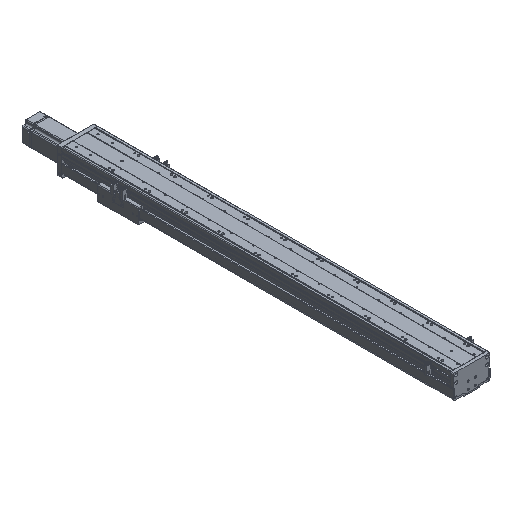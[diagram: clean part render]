
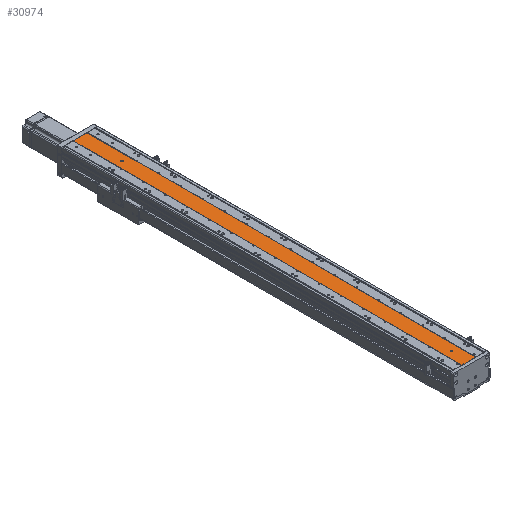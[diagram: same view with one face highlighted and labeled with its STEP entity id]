
A CAD part, isometric view. The second image highlights one B-rep face of the part: STEP entity #30974.
In plain terms, the highlighted planar face has unit normal (0, 0, 1).
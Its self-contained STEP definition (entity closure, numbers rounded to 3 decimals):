
#1096 = ORIENTED_EDGE ( 'NONE', *, *, #31874, .T. ) ;
#1143 = ORIENTED_EDGE ( 'NONE', *, *, #32269, .T. ) ;
#1165 = ORIENTED_EDGE ( 'NONE', *, *, #31855, .T. ) ;
#1166 = ORIENTED_EDGE ( 'NONE', *, *, #31952, .F. ) ;
#1167 = ORIENTED_EDGE ( 'NONE', *, *, #32033, .F. ) ;
#1181 = ORIENTED_EDGE ( 'NONE', *, *, #31840, .T. ) ;
#1188 = ORIENTED_EDGE ( 'NONE', *, *, #31878, .T. ) ;
#1205 = ORIENTED_EDGE ( 'NONE', *, *, #32273, .T. ) ;
#1897 = DIRECTION ( 'NONE',  ( 0., 0., -1. ) ) ;
#1924 = DIRECTION ( 'NONE',  ( 0., 0., -1. ) ) ;
#1931 = DIRECTION ( 'NONE',  ( -1., 0., 0. ) ) ;
#1959 = CARTESIAN_POINT ( 'NONE',  ( -10626.079, 947., -17040.86 ) ) ;
#1967 = CARTESIAN_POINT ( 'NONE',  ( -10626.079, 47., -17040.86 ) ) ;
#1977 = DIRECTION ( 'NONE',  ( -1., 0., 0. ) ) ;
#6715 = CARTESIAN_POINT ( 'NONE',  ( -10645.079, 0., -17040.86 ) ) ;
#6725 = CARTESIAN_POINT ( 'NONE',  ( -10607.079, 0., -17040.86 ) ) ;
#6851 = CARTESIAN_POINT ( 'NONE',  ( -10623.579, 947., -17040.86 ) ) ;
#6885 = CARTESIAN_POINT ( 'NONE',  ( -10623.579, 47., -17040.86 ) ) ;
#6886 = CARTESIAN_POINT ( 'NONE',  ( -10628.579, 47., -17040.86 ) ) ;
#6914 = CARTESIAN_POINT ( 'NONE',  ( -10628.579, 947., -17040.86 ) ) ;
#7470 = CARTESIAN_POINT ( 'NONE',  ( -10607.079, 1062., -17040.86 ) ) ;
#7497 = CARTESIAN_POINT ( 'NONE',  ( -10645.079, 1062., -17040.86 ) ) ;
#7943 = VERTEX_POINT ( 'NONE', #6851 ) ;
#8005 = VERTEX_POINT ( 'NONE', #6886 ) ;
#8029 = VERTEX_POINT ( 'NONE', #6885 ) ;
#8073 = VERTEX_POINT ( 'NONE', #6914 ) ;
#11044 = VERTEX_POINT ( 'NONE', #6715 ) ;
#11054 = VERTEX_POINT ( 'NONE', #6725 ) ;
#11093 = VERTEX_POINT ( 'NONE', #7497 ) ;
#11146 = VERTEX_POINT ( 'NONE', #7470 ) ;
#11985 = CIRCLE ( 'NONE', #41749, 2.5 ) ;
#11998 = LINE ( 'NONE', #43800, #11999 ) ;
#11999 = VECTOR ( 'NONE', #43812, 1000. ) ;
#12010 = CIRCLE ( 'NONE', #41619, 2.5 ) ;
#12018 = LINE ( 'NONE', #43707, #12040 ) ;
#12040 = VECTOR ( 'NONE', #43735, 1000. ) ;
#12203 = LINE ( 'NONE', #19437, #12208 ) ;
#12208 = VECTOR ( 'NONE', #19434, 1000. ) ;
#12315 = LINE ( 'NONE', #19645, #12356 ) ;
#12356 = VECTOR ( 'NONE', #19651, 1000. ) ;
#17072 = FACE_BOUND ( 'NONE', #41449, .T. ) ;
#17081 = FACE_BOUND ( 'NONE', #41345, .T. ) ;
#17085 = FACE_OUTER_BOUND ( 'NONE', #41481, .T. ) ;
#19434 = DIRECTION ( 'NONE',  ( 1., 0., 0. ) ) ;
#19437 = CARTESIAN_POINT ( 'NONE',  ( -10645.079, 1062., -17040.86 ) ) ;
#19645 = CARTESIAN_POINT ( 'NONE',  ( -10607.079, 1062., -17040.86 ) ) ;
#19651 = DIRECTION ( 'NONE',  ( 0., -1., 0. ) ) ;
#26016 = CIRCLE ( 'NONE', #42513, 2.5 ) ;
#26051 = CIRCLE ( 'NONE', #42525, 2.5 ) ;
#30974 = ADVANCED_FACE ( 'NONE', ( #17072, #17081, #17085 ), #34028, .F. ) ;
#31840 = EDGE_CURVE ( 'NONE', #8005, #8029, #11985, .T. ) ;
#31855 = EDGE_CURVE ( 'NONE', #11093, #11044, #12018, .T. ) ;
#31874 = EDGE_CURVE ( 'NONE', #8073, #7943, #12010, .T. ) ;
#31878 = EDGE_CURVE ( 'NONE', #11044, #11054, #11998, .T. ) ;
#31952 = EDGE_CURVE ( 'NONE', #11093, #11146, #12203, .T. ) ;
#32033 = EDGE_CURVE ( 'NONE', #11146, #11054, #12315, .T. ) ;
#32269 = EDGE_CURVE ( 'NONE', #8029, #8005, #26016, .T. ) ;
#32273 = EDGE_CURVE ( 'NONE', #7943, #8073, #26051, .T. ) ;
#34011 = CARTESIAN_POINT ( 'NONE',  ( -10645.079, 1062., -17040.86 ) ) ;
#34028 = PLANE ( 'NONE',  #39676 ) ;
#34029 = DIRECTION ( 'NONE',  ( -1., 0., 0. ) ) ;
#34042 = DIRECTION ( 'NONE',  ( 0., 0., -1. ) ) ;
#39676 = AXIS2_PLACEMENT_3D ( 'NONE', #34011, #34042, #34029 ) ;
#41345 = EDGE_LOOP ( 'NONE', ( #1143, #1181 ) ) ;
#41449 = EDGE_LOOP ( 'NONE', ( #1205, #1096 ) ) ;
#41481 = EDGE_LOOP ( 'NONE', ( #1188, #1167, #1166, #1165 ) ) ;
#41619 = AXIS2_PLACEMENT_3D ( 'NONE', #43797, #43813, #43808 ) ;
#41749 = AXIS2_PLACEMENT_3D ( 'NONE', #43686, #43657, #43652 ) ;
#42513 = AXIS2_PLACEMENT_3D ( 'NONE', #1967, #1924, #1931 ) ;
#42525 = AXIS2_PLACEMENT_3D ( 'NONE', #1959, #1897, #1977 ) ;
#43652 = DIRECTION ( 'NONE',  ( -1., 0., 0. ) ) ;
#43657 = DIRECTION ( 'NONE',  ( 0., 0., -1. ) ) ;
#43686 = CARTESIAN_POINT ( 'NONE',  ( -10626.079, 47., -17040.86 ) ) ;
#43707 = CARTESIAN_POINT ( 'NONE',  ( -10645.079, 1062., -17040.86 ) ) ;
#43735 = DIRECTION ( 'NONE',  ( 0., -1., 0. ) ) ;
#43797 = CARTESIAN_POINT ( 'NONE',  ( -10626.079, 947., -17040.86 ) ) ;
#43800 = CARTESIAN_POINT ( 'NONE',  ( -10645.079, 0., -17040.86 ) ) ;
#43808 = DIRECTION ( 'NONE',  ( -1., 0., 0. ) ) ;
#43812 = DIRECTION ( 'NONE',  ( 1., 0., 0. ) ) ;
#43813 = DIRECTION ( 'NONE',  ( 0., 0., -1. ) ) ;
